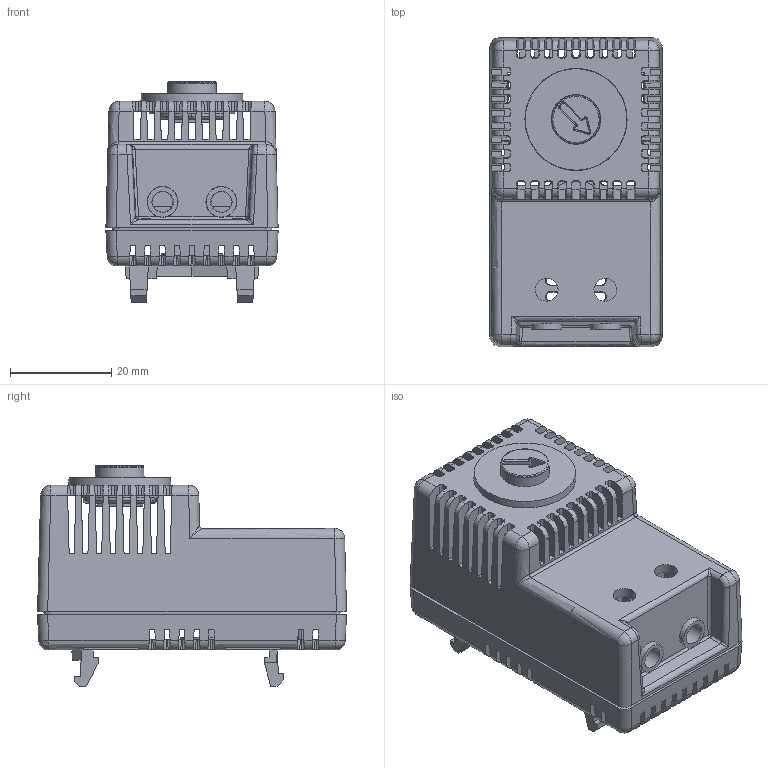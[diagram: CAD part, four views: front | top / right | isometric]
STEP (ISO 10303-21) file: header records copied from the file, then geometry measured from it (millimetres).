
FILE_DESCRIPTION(/* description */ (''),/* implementation_level */ '2;1');
FILE_NAME(/* name */ 'THR-THV',/* time_stamp */ '2023-10-12T15:41:13+02:00',/* author */ (''),/* organization */ (''),/* preprocessor_version */ 'ST-DEVELOPER v16.5',/* originating_system */ '',/* authorisation */ '');
FILE_SCHEMA (('AUTOMOTIVE_DESIGN'));
Length unit declared in the file: millimetre
Products named in the file (1): Document
Bounding box: 34 x 61 x 43.6 mm (x, y, z)
Volume: 5047.7 mm3; surface area: 22830.9 mm2
Topology: 2 solids, 3 shells, 985 faces, 3294 edges, 2158 vertices
Faces by surface type: plane 591, bspline 394
Entity records: 40693 total; most frequent: CARTESIAN_POINT 21173, ORIENTED_EDGE 6536, EDGE_CURVE 3276, B_SPLINE_CURVE_WITH_KNOTS 2587, VERTEX_POINT 2158, EDGE_LOOP 1070, ADVANCED_FACE 985, FACE_OUTER_BOUND 985
